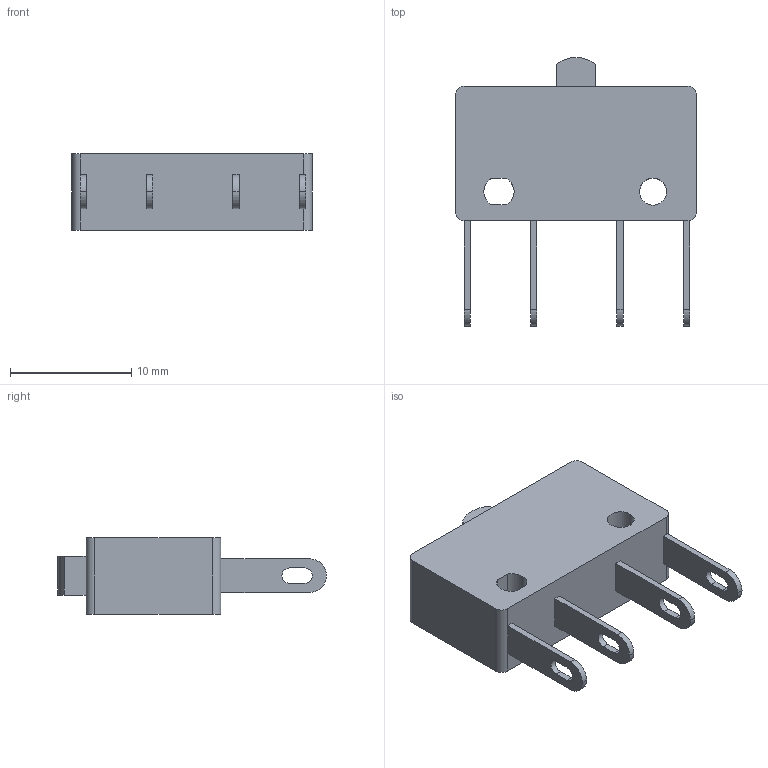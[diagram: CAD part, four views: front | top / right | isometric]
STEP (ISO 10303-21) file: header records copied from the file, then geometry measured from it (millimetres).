
FILE_DESCRIPTION (( 'STEP AP214' ), '1' );
FILE_NAME ('16-439088.STEP', '2015-05-18T15:25:55', ( 'Admin' ), ( 'Microsoft' ), 'SwSTEP 2.0', 'SolidWorks 2015', '' );
FILE_SCHEMA (( 'AUTOMOTIVE_DESIGN' ));
Length unit declared in the file: millimetre
Products named in the file (2): 16-439088
Bounding box: 19.85 x 22.15 x 6.3 mm (x, y, z)
Volume: 1395.1 mm3; surface area: 1135.2 mm2
Topology: 1 solids, 1 shells, 67 faces, 182 edges, 120 vertices
Faces by surface type: plane 37, cylinder 30
Entity records: 2934 total; most frequent: DIRECTION 380, CARTESIAN_POINT 371, ORIENTED_EDGE 364, EDGE_CURVE 182, AXIS2_PLACEMENT_3D 129, VECTOR 122, LINE 122, VERTEX_POINT 120
